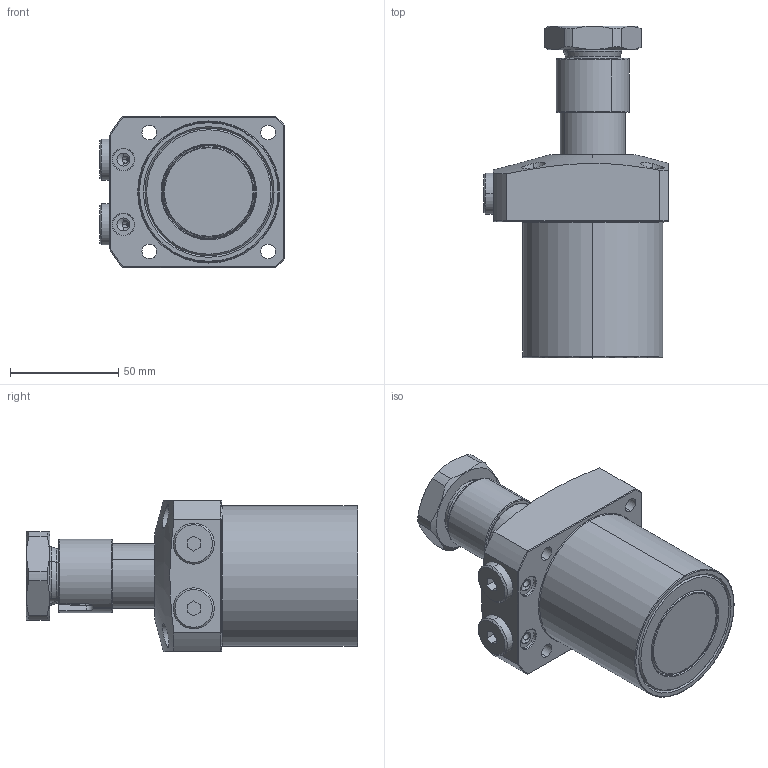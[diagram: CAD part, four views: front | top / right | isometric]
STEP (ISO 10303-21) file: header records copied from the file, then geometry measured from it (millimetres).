
FILE_DESCRIPTION(/* description */ (''),/* implementation_level */ '2;1');
FILE_NAME(/* name */ 'KTRC65-LN60.stp',/* time_stamp */ '2022-11-18T10:35:18+08:00',/* author */ (''),/* organization */ (''),/* preprocessor_version */ 'ST-DEVELOPER v16.7',/* originating_system */ 'SIEMENS PLM Software NX 12.0',/* authorisation */ '');
FILE_SCHEMA (('AP203_CONFIGURATION_CONTROLLED_3D_DESIGN_OF_MECHANICAL_PARTS_AND_ASSEMBLIES_MIM_LF { 1 0 10303 403 2 1 2}'));
Length unit declared in the file: millimetre
Products named in the file (7): KTRC65-LN60-06; KTRC65-LN60-04; KTRC65-LN60-05; KTRC65-LN60-01; KTRC65-LN60-02; KTRC65-LN60-03; LHA0650-CL-Y60_step
Assembly tree (7 placements, depth 2):
  LHA0650-CL-Y60_step
    KTRC65-LN60-03
    KTRC65-LN60-02
    KTRC65-LN60-01
    KTRC65-LN60-05  x2
    KTRC65-LN60-04
    KTRC65-LN60-06
Bounding box: 85.5 x 153.6 x 70 mm (x, y, z)
Volume: 413833.9 mm3; surface area: 58443.2 mm2
Topology: 7 solids, 7 shells, 234 faces, 547 edges, 341 vertices
Faces by surface type: cylinder 79, plane 78, cone 51, torus 24, sphere 2
Entity records: 7828 total; most frequent: CARTESIAN_POINT 1909, DIRECTION 1107, ORIENTED_EDGE 1034, EDGE_CURVE 517, AXIS2_PLACEMENT_3D 453, VERTEX_POINT 323, EDGE_LOOP 250, CIRCLE 224
